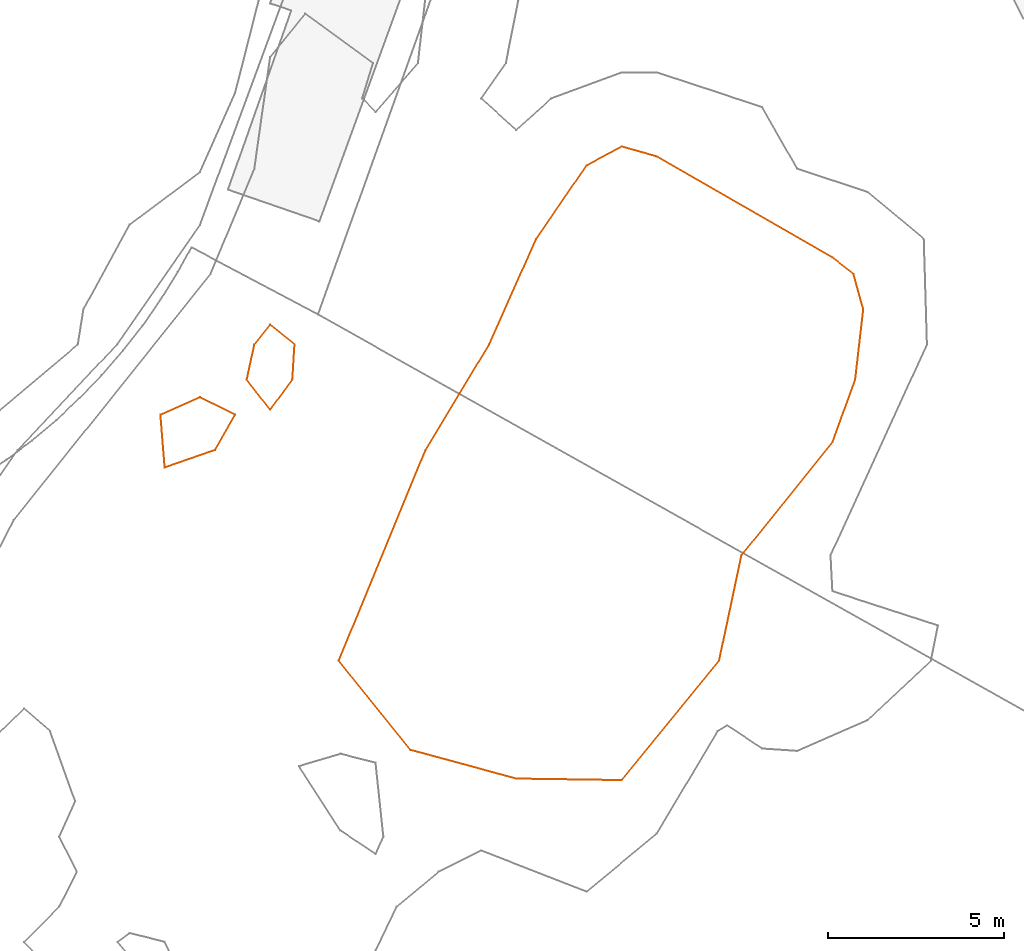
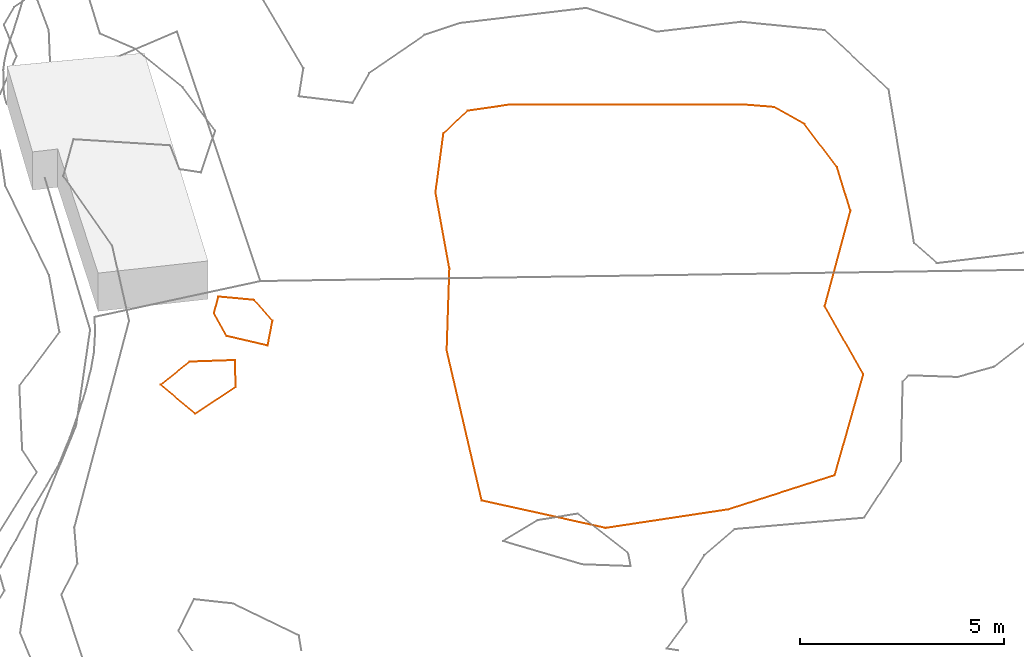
# Not in any storey, part 345 of 419: 3 proxies.
"""IFC2X3 model written with IfcOpenShell, lengths in metres."""

from ifc_helpers import new_model, entity, si_unit, frame, origin_with_axes, place, context, subcontext, project, element, save


model = new_model("IFC2X3")

# Units and contexts
model_context = context("Model", 3, precision=1e-05, world=origin_with_axes())
body_context = subcontext(model_context, "Body", "Model", "MODEL_VIEW")
ifc_project = project(units=[si_unit("AREAUNIT", "SQUARE_METRE"), si_unit("LENGTHUNIT", "METRE")], contexts=[model_context])

# Proxies
proxy_1_placement = place(None, frame((464.4253608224, 1011.8976909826, 50.0), z_axis=(0.0, 0.0, 1.0), x_axis=(1.0, 0.0, 0.0)))
element("IfcBuildingElementProxy", 1, at=proxy_1_placement, Name="Contour 50.0 m", ObjectType="NOTDEFINED", context=body_context, shape_type="GeometricCurveSet", body=[
    entity("IfcGeometricCurveSet", [entity("IfcPolyline", [entity("IfcCartesianPoint", [1.2982374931, 0.0, 0.0]), entity("IfcCartesianPoint", [0.6666596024, -0.8571389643, 0.0]), entity("IfcCartesianPoint", [0.0, 0.0, 0.0]), entity("IfcCartesianPoint", [0.2166605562, 1.0, 0.0]), entity("IfcCartesianPoint", [0.6666596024, 1.5625014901, 0.0]), entity("IfcCartesianPoint", [1.3589627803, 1.0, 0.0]), entity("IfcCartesianPoint", [1.2982374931, 0.0, 0.0])])]),
])
proxy_2_placement = place(None, frame((461.9700710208, 1010.8976909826, 50.0), z_axis=(0.0, 0.0, 1.0), x_axis=(1.0, 0.0, 0.0)))
element("IfcBuildingElementProxy", 2, at=proxy_2_placement, Name="Contour 50.0 m", ObjectType="NOTDEFINED", context=body_context, shape_type="GeometricCurveSet", body=[
    entity("IfcGeometricCurveSet", [entity("IfcPolyline", [entity("IfcCartesianPoint", [1.5505052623, -1.0, 0.0]), entity("IfcCartesianPoint", [0.121949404, -1.5000166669, 0.0]), entity("IfcCartesianPoint", [0.0, 0.0, 0.0]), entity("IfcCartesianPoint", [1.121949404, 0.5000062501, 0.0]), entity("IfcCartesianPoint", [2.1219993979, 0.0, 0.0]), entity("IfcCartesianPoint", [1.5505052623, -1.0, 0.0])])]),
])
proxy_3_placement = place(None, frame((467.0420280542, 1003.8976909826, 49.0), z_axis=(0.0, 0.0, 1.0), x_axis=(1.0, 0.0, 0.0)))
element("IfcBuildingElementProxy", 3, at=proxy_3_placement, Name="Contour 49.0 m", ObjectType="NOTDEFINED", context=body_context, shape_type="GeometricCurveSet", body=[
    entity("IfcGeometricCurveSet", [entity("IfcPolyline", [entity("IfcCartesianPoint", [8.0499923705, -3.3965522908, 0.0]), entity("IfcCartesianPoint", [10.8227224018, 0.0, 0.0]), entity("IfcCartesianPoint", [11.4602490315, 3.0, 0.0]), entity("IfcCartesianPoint", [14.0499923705, 6.2222269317, 0.0]), entity("IfcCartesianPoint", [14.6958291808, 8.0, 0.0]), entity("IfcCartesianPoint", [14.926704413, 10.0, 0.0]), entity("IfcCartesianPoint", [14.6499942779, 11.0, 0.0]), entity("IfcCartesianPoint", [14.0499923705, 11.4705895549, 0.0]), entity("IfcCartesianPoint", [9.0499923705, 14.3488405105, 0.0]), entity("IfcCartesianPoint", [8.0499923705, 14.6304380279, 0.0]), entity("IfcCartesianPoint", [7.0499923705, 14.0930253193, 0.0]), entity("IfcCartesianPoint", [5.6160299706, 12.0, 0.0]), entity("IfcCartesianPoint", [4.2791605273, 9.0, 0.0]), entity("IfcCartesianPoint", [2.4699905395, 6.0, 0.0]), entity("IfcCartesianPoint", [0.0, 0.0, 0.0]), entity("IfcCartesianPoint", [2.0499923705, -2.5384600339, 0.0]), entity("IfcCartesianPoint", [5.0499923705, -3.3541631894, 0.0]), entity("IfcCartesianPoint", [8.0499923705, -3.3965522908, 0.0])])]),
])

save(model, "model.ifc")
